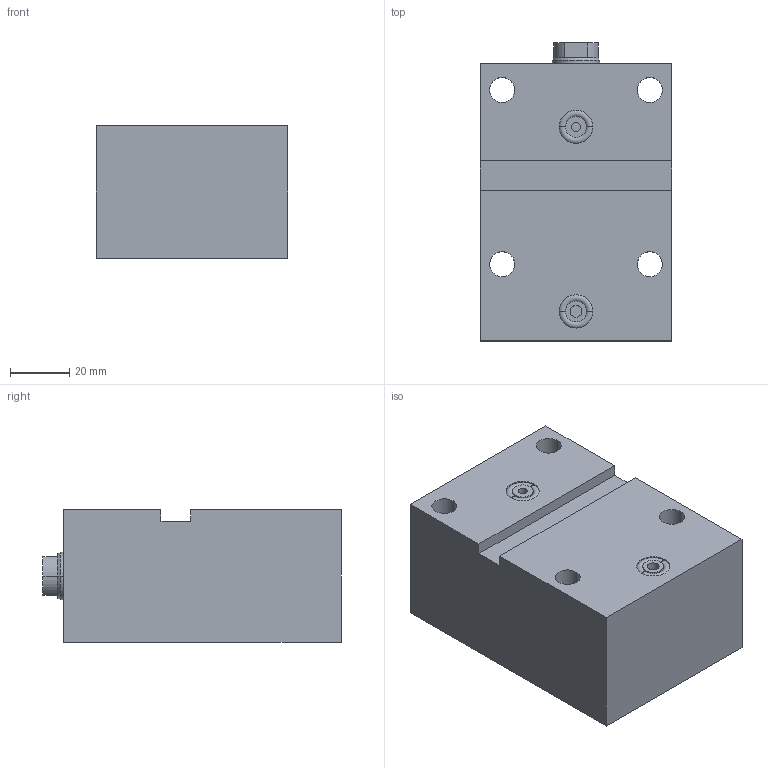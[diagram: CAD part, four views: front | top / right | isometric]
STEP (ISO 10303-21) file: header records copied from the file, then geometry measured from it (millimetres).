
FILE_DESCRIPTION (( 'STEP AP203' ), '1' );
FILE_NAME ('GERMA_Blockzylinder_603-025-050.STEP', '2016-01-08T18:11:42', ( '' ), ( '' ), 'SwSTEP 2.0', 'SolidWorks 2015', '' );
FILE_SCHEMA (( 'CONFIG_CONTROL_DESIGN' ));
Length unit declared in the file: millimetre
Products named in the file (3): GH-600-025_GH-603-025-050; Kolben 60x-025_Kolben DU.25-Hub50-IG; GERMA_Blockzylinder_603-025-050
Assembly tree (2 placements, depth 2):
  GERMA_Blockzylinder_603-025-050
    GH-600-025_GH-603-025-050
    Kolben 60x-025_Kolben DU.25-Hub50-IG
Bounding box: 65 x 101 x 45 mm (x, y, z)
Volume: 247502.9 mm3; surface area: 44581.4 mm2
Topology: 2 solids, 2 shells, 85 faces, 188 edges, 114 vertices
Faces by surface type: cylinder 41, plane 26, cone 14, torus 4
Entity records: 2638 total; most frequent: DIRECTION 459, CARTESIAN_POINT 386, ORIENTED_EDGE 364, AXIS2_PLACEMENT_3D 187, EDGE_CURVE 182, VERTEX_POINT 114, EDGE_LOOP 106, CIRCLE 97
